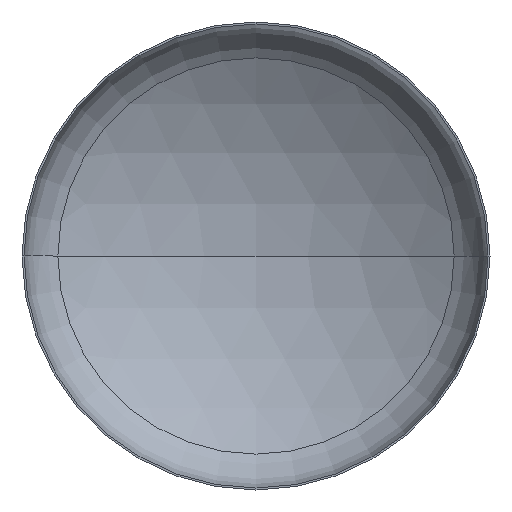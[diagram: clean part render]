
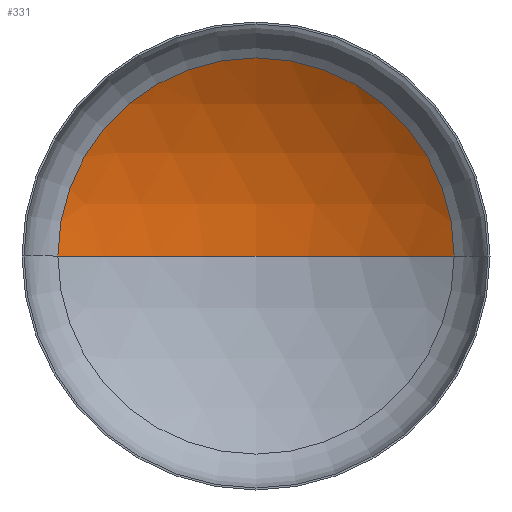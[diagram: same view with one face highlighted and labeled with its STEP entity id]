
A CAD part, front view. The second image highlights one B-rep face of the part: STEP entity #331.
In plain terms, the highlighted spherical face has radius 6400 mm.
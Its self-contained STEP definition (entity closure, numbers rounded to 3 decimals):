
#1 = DIRECTION ( 'NONE',  ( 1., 0., 0. ) ) ;
#3 = DIRECTION ( 'NONE',  ( 0., 0., -1. ) ) ;
#9 = CARTESIAN_POINT ( 'NONE',  ( 0., -4276.708, 0. ) ) ;
#10 = AXIS2_PLACEMENT_3D ( 'NONE', #124, #171, #147 ) ;
#19 = VERTEX_POINT ( 'NONE', #267 ) ;
#48 = VERTEX_POINT ( 'NONE', #232 ) ;
#49 = DIRECTION ( 'NONE',  ( 1., 0., 0. ) ) ;
#56 = ORIENTED_EDGE ( 'NONE', *, *, #138, .T. ) ;
#57 = AXIS2_PLACEMENT_3D ( 'NONE', #402, #264, #49 ) ;
#60 = CIRCLE ( 'NONE', #63, 6400. ) ;
#63 = AXIS2_PLACEMENT_3D ( 'NONE', #9, #3, #269 ) ;
#66 = AXIS2_PLACEMENT_3D ( 'NONE', #317, #250, #1 ) ;
#71 = ORIENTED_EDGE ( 'NONE', *, *, #145, .T. ) ;
#110 = VERTEX_POINT ( 'NONE', #329 ) ;
#124 = CARTESIAN_POINT ( 'NONE',  ( 0., -4276.708, 0. ) ) ;
#134 = EDGE_LOOP ( 'NONE', ( #292, #71, #56 ) ) ;
#138 = EDGE_CURVE ( 'NONE', #19, #110, #320, .T. ) ;
#145 = EDGE_CURVE ( 'NONE', #48, #19, #60, .T. ) ;
#147 = DIRECTION ( 'NONE',  ( -1., 0., 0. ) ) ;
#148 = EDGE_CURVE ( 'NONE', #48, #110, #257, .T. ) ;
#171 = DIRECTION ( 'NONE',  ( 0., 0., -1. ) ) ;
#232 = CARTESIAN_POINT ( 'NONE',  ( 0., 2123.292, 0. ) ) ;
#250 = DIRECTION ( 'NONE',  ( 0., -1., 0. ) ) ;
#257 = CIRCLE ( 'NONE', #57, 6400. ) ;
#264 = DIRECTION ( 'NONE',  ( 0., 0., 1. ) ) ;
#267 = CARTESIAN_POINT ( 'NONE',  ( 3386.925, 1153.646, 0. ) ) ;
#269 = DIRECTION ( 'NONE',  ( -1., 0., 0. ) ) ;
#292 = ORIENTED_EDGE ( 'NONE', *, *, #148, .F. ) ;
#317 = CARTESIAN_POINT ( 'NONE',  ( 0., 1153.646, 0. ) ) ;
#320 = CIRCLE ( 'NONE', #66, 3386.925 ) ;
#329 = CARTESIAN_POINT ( 'NONE',  ( -3386.925, 1153.646, 0. ) ) ;
#331 = ADVANCED_FACE ( 'NONE', ( #407 ), #352, .F. ) ;
#352 = SPHERICAL_SURFACE ( 'NONE', #10, 6400. ) ;
#402 = CARTESIAN_POINT ( 'NONE',  ( 0., -4276.708, 0. ) ) ;
#407 = FACE_OUTER_BOUND ( 'NONE', #134, .T. ) ;
